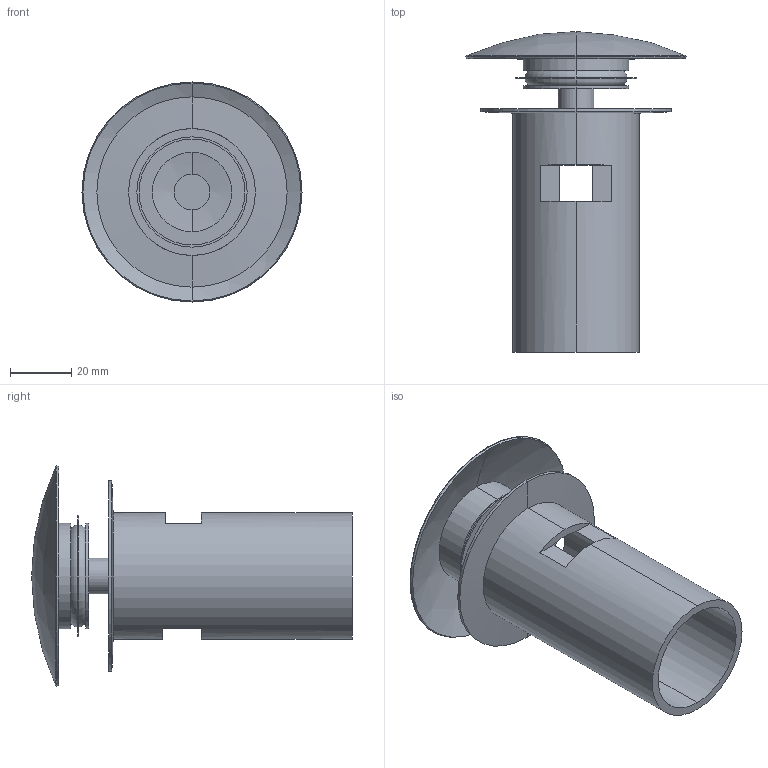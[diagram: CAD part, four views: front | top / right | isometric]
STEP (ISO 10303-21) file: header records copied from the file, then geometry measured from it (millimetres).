
FILE_DESCRIPTION (( 'STEP AP203' ), '1' );
FILE_NAME ('SF031.STEP', '2016-08-15T08:13:48', ( '' ), ( '' ), 'SwSTEP 2.0', 'SolidWorks 2016', '' );
FILE_SCHEMA (( 'CONFIG_CONTROL_DESIGN' ));
Length unit declared in the file: millimetre
Products named in the file (1): SF031
Bounding box: 71.83 x 104.68 x 71.83 mm (x, y, z)
Volume: 39223.8 mm3; surface area: 38938.6 mm2
Topology: 4 solids, 4 shells, 64 faces, 144 edges, 88 vertices
Faces by surface type: cylinder 24, plane 18, cone 8, sphere 8, torus 6
Entity records: 1895 total; most frequent: DIRECTION 366, CARTESIAN_POINT 297, ORIENTED_EDGE 288, AXIS2_PLACEMENT_3D 157, EDGE_CURVE 144, CIRCLE 92, VERTEX_POINT 88, EDGE_LOOP 72
